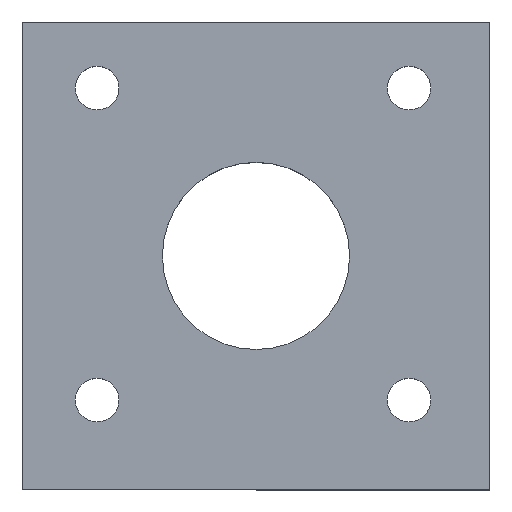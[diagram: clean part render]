
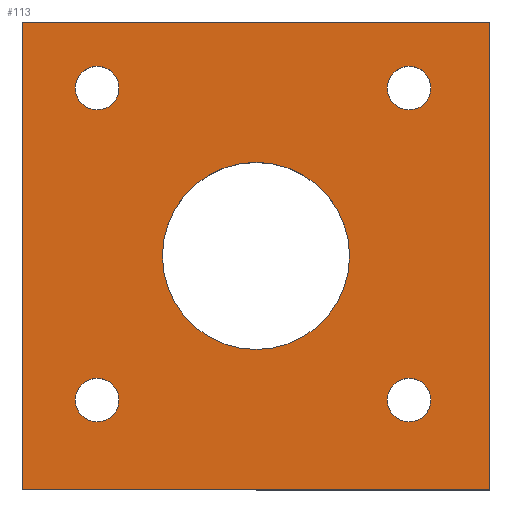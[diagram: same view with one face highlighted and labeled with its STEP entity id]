
A CAD part, top view. The second image highlights one B-rep face of the part: STEP entity #113.
In plain terms, the highlighted planar face has unit normal (0, 0, 1).
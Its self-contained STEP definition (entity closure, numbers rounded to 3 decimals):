
#5 = CARTESIAN_POINT ( 'NONE',  ( -50.924, 53.796, 10. ) ) ;
#6 = CARTESIAN_POINT ( 'NONE',  ( 0., 0., 10. ) ) ;
#9 = ORIENTED_EDGE ( 'NONE', *, *, #254, .T. ) ;
#10 = DIRECTION ( 'NONE',  ( 0., 1., 0. ) ) ;
#12 = EDGE_CURVE ( 'NONE', #272, #489, #336, .T. ) ;
#18 = CARTESIAN_POINT ( 'NONE',  ( -75., -75., 10. ) ) ;
#21 = ORIENTED_EDGE ( 'NONE', *, *, #200, .F. ) ;
#22 = EDGE_CURVE ( 'NONE', #489, #272, #295, .T. ) ;
#32 = VERTEX_POINT ( 'NONE', #252 ) ;
#37 = AXIS2_PLACEMENT_3D ( 'NONE', #194, #516, #255 ) ;
#38 = LINE ( 'NONE', #535, #234 ) ;
#39 = ORIENTED_EDGE ( 'NONE', *, *, #627, .F. ) ;
#43 = EDGE_CURVE ( 'NONE', #480, #32, #551, .T. ) ;
#53 = VERTEX_POINT ( 'NONE', #97 ) ;
#55 = CARTESIAN_POINT ( 'NONE',  ( 75., -75., 10. ) ) ;
#61 = DIRECTION ( 'NONE',  ( 1., 0., 0. ) ) ;
#63 = ORIENTED_EDGE ( 'NONE', *, *, #573, .F. ) ;
#69 = CARTESIAN_POINT ( 'NONE',  ( 56.076, 53.796, 10. ) ) ;
#72 = EDGE_LOOP ( 'NONE', ( #9, #607, #429, #651 ) ) ;
#73 = CARTESIAN_POINT ( 'NONE',  ( -57.924, -46.204, 10. ) ) ;
#76 = AXIS2_PLACEMENT_3D ( 'NONE', #134, #447, #83 ) ;
#78 = CIRCLE ( 'NONE', #686, 7. ) ;
#80 = CIRCLE ( 'NONE', #466, 7. ) ;
#83 = DIRECTION ( 'NONE',  ( 1., 0., 0. ) ) ;
#92 = DIRECTION ( 'NONE',  ( 0., 0., 1. ) ) ;
#97 = CARTESIAN_POINT ( 'NONE',  ( 42.076, -46.204, 10. ) ) ;
#100 = CIRCLE ( 'NONE', #470, 30. ) ;
#105 = DIRECTION ( 'NONE',  ( 0., 0., 1. ) ) ;
#113 = ADVANCED_FACE ( 'NONE', ( #142, #349, #556, #432, #608, #524 ), #290, .T. ) ;
#118 = CARTESIAN_POINT ( 'NONE',  ( 0., 0., 10. ) ) ;
#120 = CIRCLE ( 'NONE', #659, 7. ) ;
#134 = CARTESIAN_POINT ( 'NONE',  ( -50.924, -46.204, 10. ) ) ;
#139 = CARTESIAN_POINT ( 'NONE',  ( 75., 75., 10. ) ) ;
#140 = CIRCLE ( 'NONE', #376, 7. ) ;
#142 = FACE_BOUND ( 'NONE', #392, .T. ) ;
#150 = VERTEX_POINT ( 'NONE', #601 ) ;
#159 = DIRECTION ( 'NONE',  ( 1., 0., 0. ) ) ;
#175 = CARTESIAN_POINT ( 'NONE',  ( 56.076, -46.204, 10. ) ) ;
#176 = CIRCLE ( 'NONE', #395, 30. ) ;
#187 = EDGE_LOOP ( 'NONE', ( #679, #225 ) ) ;
#194 = CARTESIAN_POINT ( 'NONE',  ( 49.076, 53.796, 10. ) ) ;
#200 = EDGE_CURVE ( 'NONE', #600, #382, #402, .T. ) ;
#208 = VERTEX_POINT ( 'NONE', #554 ) ;
#209 = CARTESIAN_POINT ( 'NONE',  ( -57.924, 53.796, 10. ) ) ;
#213 = DIRECTION ( 'NONE',  ( 1., 0., 0. ) ) ;
#219 = EDGE_CURVE ( 'NONE', #53, #574, #120, .T. ) ;
#222 = CARTESIAN_POINT ( 'NONE',  ( -50.924, -46.204, 10. ) ) ;
#225 = ORIENTED_EDGE ( 'NONE', *, *, #219, .F. ) ;
#226 = DIRECTION ( 'NONE',  ( 0., 0., 1. ) ) ;
#234 = VECTOR ( 'NONE', #213, 1000. ) ;
#235 = EDGE_CURVE ( 'NONE', #289, #237, #501, .T. ) ;
#237 = VERTEX_POINT ( 'NONE', #670 ) ;
#243 = EDGE_LOOP ( 'NONE', ( #638, #510 ) ) ;
#245 = CARTESIAN_POINT ( 'NONE',  ( 75., 75., 10. ) ) ;
#248 = CARTESIAN_POINT ( 'NONE',  ( 49.076, 53.796, 10. ) ) ;
#252 = CARTESIAN_POINT ( 'NONE',  ( -75., 75., 10. ) ) ;
#254 = EDGE_CURVE ( 'NONE', #32, #150, #356, .T. ) ;
#255 = DIRECTION ( 'NONE',  ( 1., 0., 0. ) ) ;
#271 = DIRECTION ( 'NONE',  ( 0., 0., 1. ) ) ;
#272 = VERTEX_POINT ( 'NONE', #300 ) ;
#273 = DIRECTION ( 'NONE',  ( 1., 0., 0. ) ) ;
#279 = DIRECTION ( 'NONE',  ( 1., 0., 0. ) ) ;
#287 = CARTESIAN_POINT ( 'NONE',  ( -50.924, 53.796, 10. ) ) ;
#289 = VERTEX_POINT ( 'NONE', #73 ) ;
#290 = PLANE ( 'NONE',  #460 ) ;
#291 = ORIENTED_EDGE ( 'NONE', *, *, #301, .F. ) ;
#295 = CIRCLE ( 'NONE', #314, 7. ) ;
#296 = VERTEX_POINT ( 'NONE', #683 ) ;
#300 = CARTESIAN_POINT ( 'NONE',  ( 42.076, 53.796, 10. ) ) ;
#301 = EDGE_CURVE ( 'NONE', #237, #289, #140, .T. ) ;
#312 = VECTOR ( 'NONE', #10, 1000. ) ;
#314 = AXIS2_PLACEMENT_3D ( 'NONE', #248, #92, #617 ) ;
#336 = CIRCLE ( 'NONE', #37, 7. ) ;
#338 = DIRECTION ( 'NONE',  ( 0., 0., 1. ) ) ;
#345 = ORIENTED_EDGE ( 'NONE', *, *, #596, .F. ) ;
#348 = CARTESIAN_POINT ( 'NONE',  ( 0., 0., 10. ) ) ;
#349 = FACE_BOUND ( 'NONE', #243, .T. ) ;
#353 = EDGE_CURVE ( 'NONE', #150, #620, #38, .T. ) ;
#356 = LINE ( 'NONE', #18, #644 ) ;
#375 = DIRECTION ( 'NONE',  ( 1., 0., 0. ) ) ;
#376 = AXIS2_PLACEMENT_3D ( 'NONE', #222, #584, #273 ) ;
#382 = VERTEX_POINT ( 'NONE', #209 ) ;
#385 = DIRECTION ( 'NONE',  ( 0., 0., 1. ) ) ;
#389 = CARTESIAN_POINT ( 'NONE',  ( 49.076, -46.204, 10. ) ) ;
#392 = EDGE_LOOP ( 'NONE', ( #21, #63 ) ) ;
#395 = AXIS2_PLACEMENT_3D ( 'NONE', #118, #271, #159 ) ;
#396 = DIRECTION ( 'NONE',  ( 0., 0., 1. ) ) ;
#402 = CIRCLE ( 'NONE', #692, 7. ) ;
#429 = ORIENTED_EDGE ( 'NONE', *, *, #580, .T. ) ;
#432 = FACE_BOUND ( 'NONE', #487, .T. ) ;
#445 = CARTESIAN_POINT ( 'NONE',  ( 49.076, -46.204, 10. ) ) ;
#447 = DIRECTION ( 'NONE',  ( 0., 0., 1. ) ) ;
#450 = ORIENTED_EDGE ( 'NONE', *, *, #235, .F. ) ;
#460 = AXIS2_PLACEMENT_3D ( 'NONE', #6, #226, #585 ) ;
#466 = AXIS2_PLACEMENT_3D ( 'NONE', #389, #338, #650 ) ;
#469 = DIRECTION ( 'NONE',  ( -1., 0., 0. ) ) ;
#470 = AXIS2_PLACEMENT_3D ( 'NONE', #348, #105, #279 ) ;
#480 = VERTEX_POINT ( 'NONE', #245 ) ;
#487 = EDGE_LOOP ( 'NONE', ( #291, #450 ) ) ;
#489 = VERTEX_POINT ( 'NONE', #69 ) ;
#492 = LINE ( 'NONE', #55, #312 ) ;
#493 = EDGE_LOOP ( 'NONE', ( #345, #39 ) ) ;
#501 = CIRCLE ( 'NONE', #76, 7. ) ;
#506 = DIRECTION ( 'NONE',  ( 1., 0., 0. ) ) ;
#510 = ORIENTED_EDGE ( 'NONE', *, *, #12, .F. ) ;
#513 = EDGE_CURVE ( 'NONE', #574, #53, #80, .T. ) ;
#516 = DIRECTION ( 'NONE',  ( 0., 0., 1. ) ) ;
#524 = FACE_BOUND ( 'NONE', #493, .T. ) ;
#535 = CARTESIAN_POINT ( 'NONE',  ( 75., -75., 10. ) ) ;
#551 = LINE ( 'NONE', #139, #629 ) ;
#554 = CARTESIAN_POINT ( 'NONE',  ( -30., 0., 10. ) ) ;
#556 = FACE_BOUND ( 'NONE', #187, .T. ) ;
#563 = DIRECTION ( 'NONE',  ( 0., -1., 0. ) ) ;
#566 = DIRECTION ( 'NONE',  ( 0., 0., 1. ) ) ;
#573 = EDGE_CURVE ( 'NONE', #382, #600, #78, .T. ) ;
#574 = VERTEX_POINT ( 'NONE', #175 ) ;
#580 = EDGE_CURVE ( 'NONE', #620, #480, #492, .T. ) ;
#584 = DIRECTION ( 'NONE',  ( 0., 0., 1. ) ) ;
#585 = DIRECTION ( 'NONE',  ( 1., 0., 0. ) ) ;
#596 = EDGE_CURVE ( 'NONE', #208, #296, #176, .T. ) ;
#600 = VERTEX_POINT ( 'NONE', #646 ) ;
#601 = CARTESIAN_POINT ( 'NONE',  ( -75., -75., 10. ) ) ;
#607 = ORIENTED_EDGE ( 'NONE', *, *, #353, .T. ) ;
#608 = FACE_OUTER_BOUND ( 'NONE', #72, .T. ) ;
#617 = DIRECTION ( 'NONE',  ( 1., 0., 0. ) ) ;
#620 = VERTEX_POINT ( 'NONE', #682 ) ;
#627 = EDGE_CURVE ( 'NONE', #296, #208, #100, .T. ) ;
#629 = VECTOR ( 'NONE', #469, 1000. ) ;
#638 = ORIENTED_EDGE ( 'NONE', *, *, #22, .F. ) ;
#644 = VECTOR ( 'NONE', #563, 1000. ) ;
#646 = CARTESIAN_POINT ( 'NONE',  ( -43.924, 53.796, 10. ) ) ;
#650 = DIRECTION ( 'NONE',  ( 1., 0., 0. ) ) ;
#651 = ORIENTED_EDGE ( 'NONE', *, *, #43, .T. ) ;
#659 = AXIS2_PLACEMENT_3D ( 'NONE', #445, #566, #375 ) ;
#670 = CARTESIAN_POINT ( 'NONE',  ( -43.924, -46.204, 10. ) ) ;
#679 = ORIENTED_EDGE ( 'NONE', *, *, #513, .F. ) ;
#682 = CARTESIAN_POINT ( 'NONE',  ( 75., -75., 10. ) ) ;
#683 = CARTESIAN_POINT ( 'NONE',  ( 30., 0., 10. ) ) ;
#686 = AXIS2_PLACEMENT_3D ( 'NONE', #5, #385, #61 ) ;
#692 = AXIS2_PLACEMENT_3D ( 'NONE', #287, #396, #506 ) ;
